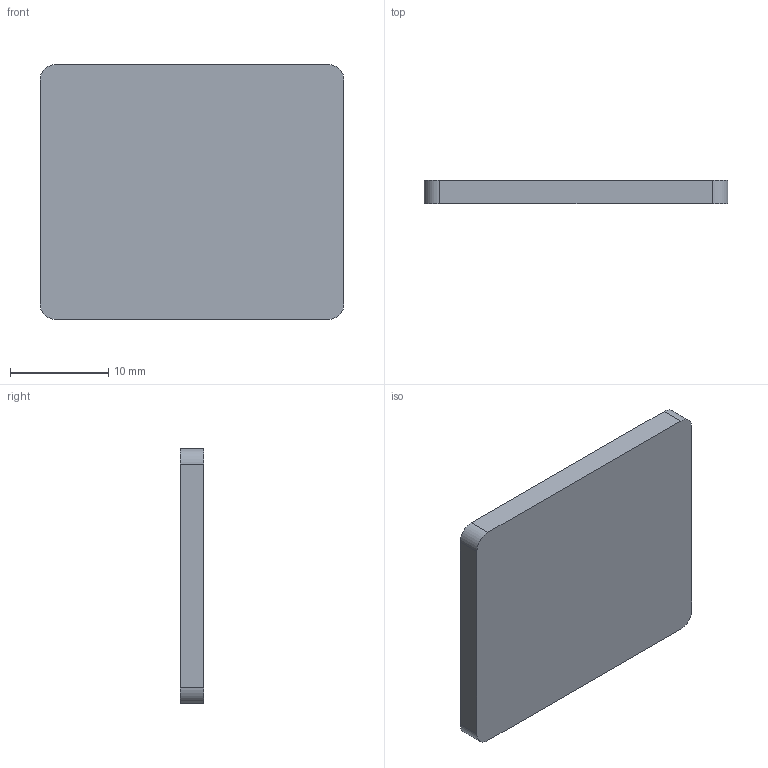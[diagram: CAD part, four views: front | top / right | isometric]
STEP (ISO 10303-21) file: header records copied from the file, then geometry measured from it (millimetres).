
FILE_DESCRIPTION(('Open CASCADE Model'),'2;1');
FILE_NAME('Open CASCADE Shape Model','2026-11-05T02:23:55',('Author'),( 'Open CASCADE'),'Open CASCADE STEP processor 7.8','Open CASCADE 7.8' ,'Unknown');
FILE_SCHEMA(('AUTOMOTIVE_DESIGN { 1 0 10303 214 1 1 1 1 }'));
Length unit declared in the file: millimetre
Products named in the file (1): Open CASCADE STEP translator 7.8 27
Bounding box: 31 x 2.4 x 26 mm (x, y, z)
Volume: 1929.1 mm3; surface area: 1874.6 mm2
Topology: 1 solids, 1 shells, 10 faces, 24 edges, 16 vertices
Faces by surface type: plane 6, cylinder 4
Entity records: 630 total; most frequent: CARTESIAN_POINT 123, DIRECTION 98, LINE 56, VECTOR 56, ORIENTED_EDGE 48, PCURVE 48, DEFINITIONAL_REPRESENTATION 48, EDGE_CURVE 24
